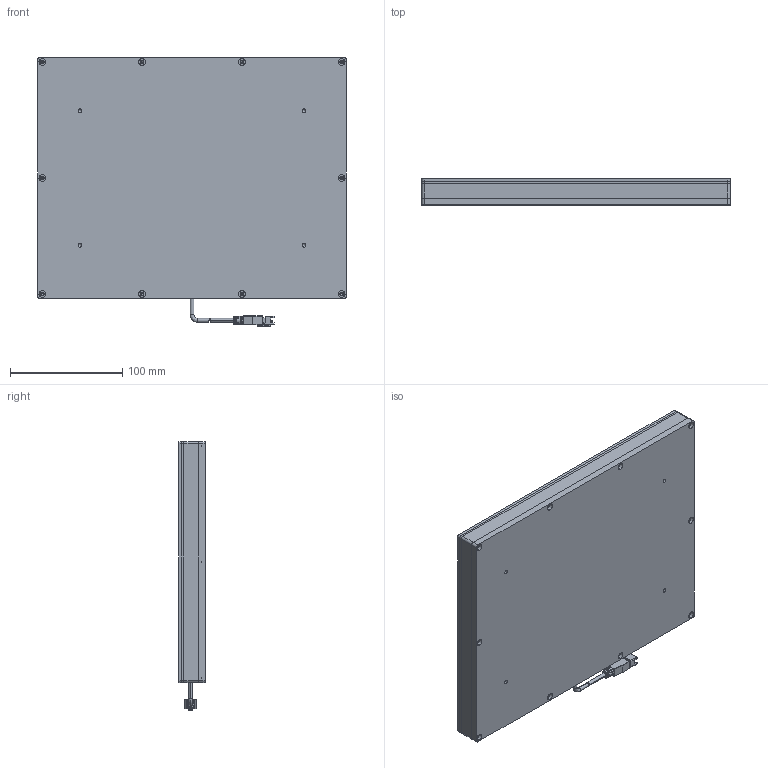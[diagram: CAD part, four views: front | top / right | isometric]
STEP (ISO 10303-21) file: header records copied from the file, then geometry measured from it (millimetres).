
FILE_DESCRIPTION (( 'STEP AP203' ), '1' );
FILE_NAME ('CST-PHFS260200-CD-¼òÒ×3DÍ¼.STEP', '2022-05-07T09:35:36', ( '' ), ( '' ), 'SwSTEP 2.0', 'SolidWorks 2018', '' );
FILE_SCHEMA (( 'CONFIG_CONTROL_DESIGN' ));
Length unit declared in the file: millimetre
Products named in the file (1): CST-PHFS260200-CD-潠眢3D芞
Bounding box: 275 x 23.5 x 239.95 mm (x, y, z)
Surface area: 408361.4 mm2 (no closed solid volume)
Topology: 0 solids, 6 shells, 494 faces, 1286 edges, 775 vertices
Faces by surface type: cylinder 217, plane 159, cone 84, bspline 28, torus 6
Entity records: 15433 total; most frequent: CARTESIAN_POINT 3360, DIRECTION 2600, ORIENTED_EDGE 2397, EDGE_CURVE 1222, AXIS2_PLACEMENT_3D 963, VERTEX_POINT 775, VECTOR 674, LINE 674
